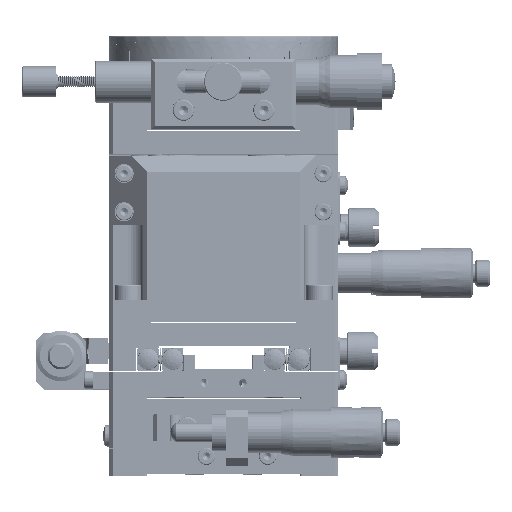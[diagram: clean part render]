
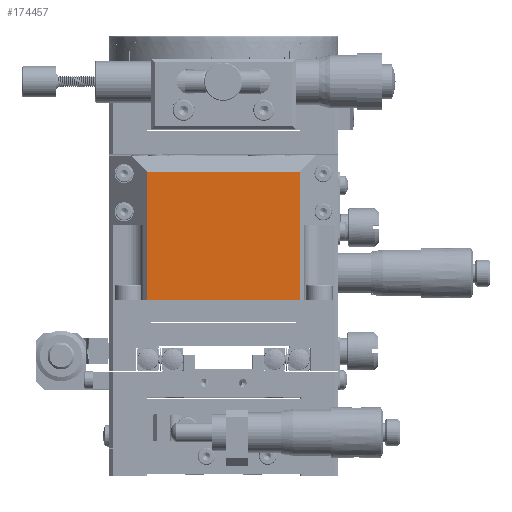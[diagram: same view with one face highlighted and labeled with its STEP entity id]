
A CAD part, top view. The second image highlights one B-rep face of the part: STEP entity #174457.
In plain terms, the highlighted planar face has unit normal (0, 0, 1).
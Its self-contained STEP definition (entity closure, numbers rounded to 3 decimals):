
#18988 = LINE ( 'NONE', #227179, #64060 ) ;
#19351 = CARTESIAN_POINT ( 'NONE',  ( 24.839, 51.234, 68.526 ) ) ;
#22937 = VERTEX_POINT ( 'NONE', #205587 ) ;
#35660 = PLANE ( 'NONE',  #188637 ) ;
#48044 = EDGE_CURVE ( 'NONE', #351955, #266500, #215881, .T. ) ;
#64060 = VECTOR ( 'NONE', #426789, 1000. ) ;
#97174 = DIRECTION ( 'NONE',  ( 0., 0., 1. ) ) ;
#151177 = VECTOR ( 'NONE', #248794, 1000. ) ;
#166924 = ORIENTED_EDGE ( 'NONE', *, *, #335362, .T. ) ;
#174457 = ADVANCED_FACE ( 'NONE', ( #239510 ), #35660, .T. ) ;
#180792 = CARTESIAN_POINT ( 'NONE',  ( 4.839, 36.484, 68.526 ) ) ;
#188637 = AXIS2_PLACEMENT_3D ( 'NONE', #333939, #97174, #373342 ) ;
#189887 = VECTOR ( 'NONE', #203740, 1000. ) ;
#203740 = DIRECTION ( 'NONE',  ( 1., 0., 0. ) ) ;
#205587 = CARTESIAN_POINT ( 'NONE',  ( 44.839, 51.234, 68.526 ) ) ;
#208482 = ORIENTED_EDGE ( 'NONE', *, *, #258700, .T. ) ;
#215034 = ORIENTED_EDGE ( 'NONE', *, *, #279258, .T. ) ;
#215881 = LINE ( 'NONE', #180792, #151177 ) ;
#227179 = CARTESIAN_POINT ( 'NONE',  ( 44.839, 36.484, 68.526 ) ) ;
#239510 = FACE_OUTER_BOUND ( 'NONE', #294755, .T. ) ;
#243098 = CARTESIAN_POINT ( 'NONE',  ( -5.161, 17.734, 68.526 ) ) ;
#248794 = DIRECTION ( 'NONE',  ( 0., -1., 0. ) ) ;
#258700 = EDGE_CURVE ( 'NONE', #22937, #351955, #392099, .T. ) ;
#266500 = VERTEX_POINT ( 'NONE', #360163 ) ;
#272767 = ORIENTED_EDGE ( 'NONE', *, *, #48044, .T. ) ;
#279258 = EDGE_CURVE ( 'NONE', #266500, #290950, #335377, .T. ) ;
#286902 = DIRECTION ( 'NONE',  ( -1., 0., 0. ) ) ;
#287509 = CARTESIAN_POINT ( 'NONE',  ( 44.839, 17.734, 68.526 ) ) ;
#290950 = VERTEX_POINT ( 'NONE', #287509 ) ;
#294755 = EDGE_LOOP ( 'NONE', ( #215034, #166924, #208482, #272767 ) ) ;
#333939 = CARTESIAN_POINT ( 'NONE',  ( 24.839, 36.484, 68.526 ) ) ;
#335362 = EDGE_CURVE ( 'NONE', #290950, #22937, #18988, .T. ) ;
#335377 = LINE ( 'NONE', #243098, #189887 ) ;
#335410 = CARTESIAN_POINT ( 'NONE',  ( 4.839, 51.234, 68.526 ) ) ;
#351955 = VERTEX_POINT ( 'NONE', #335410 ) ;
#360163 = CARTESIAN_POINT ( 'NONE',  ( 4.839, 17.734, 68.526 ) ) ;
#365062 = VECTOR ( 'NONE', #286902, 1000. ) ;
#373342 = DIRECTION ( 'NONE',  ( 0., -1., 0. ) ) ;
#392099 = LINE ( 'NONE', #19351, #365062 ) ;
#426789 = DIRECTION ( 'NONE',  ( 0., 1., 0. ) ) ;
